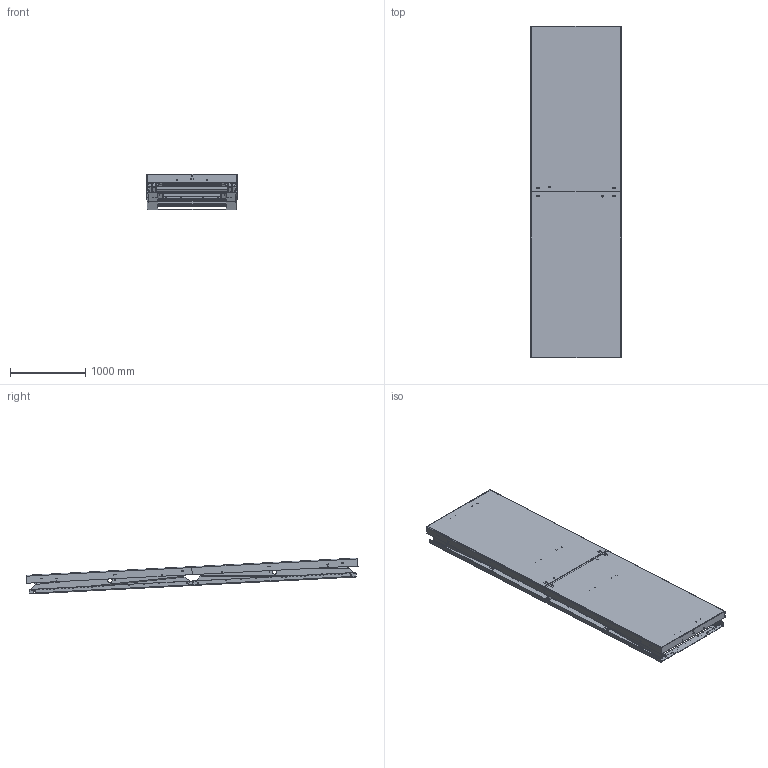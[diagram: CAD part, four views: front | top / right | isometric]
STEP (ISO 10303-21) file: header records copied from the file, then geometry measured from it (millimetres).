
FILE_DESCRIPTION(/* description */ ('TSH 4001 (4400x1200)'),/* implementation_level */ '2;1');
FILE_NAME(/* name */ '\\EDMOFILE01\Users$\JOHSO\Desktop\610970_Closed-Height.stp',/* time_stamp */ '2017-07-03T08:47:49+02:00',/* author */ ('johso'),/* organization */ (''),/* preprocessor_version */ 'ST-DEVELOPER v16.5',/* originating_system */ 'Autodesk Inventor 2017',/* authorisation */ '');
FILE_SCHEMA (('AUTOMOTIVE_DESIGN { 1 0 10303 214 3 1 1 }'));
Length unit declared in the file: millimetre
Products named in the file (27): 610970.tmp; 33731; 514600; 514601-4; 612092; 612093; 514601-2; 44870; 83208; 83209; 33732; 33732-1; 600196; 45259; 85955; 45387; ISO 4014 - M8 x 40; ISO 4019 - 50x50x5 - 1186; 48060; 606522; 606529; 82159-2112; 80060 - 768; 606523; 603642; 82159-2112_1; 82092 - 949
Assembly tree (72 placements, depth 4):
  610970.tmp
    33731
      514600  x2
        514601-4
        612092
        612093
        514601-2
        44870
        45259
      83208  x4
      83209  x4
    33732
      33732-1  x2
      45259  x4
      45387  x16
      ISO 4014 - M8 x 40  x10
      600196  x2
      85955  x2
      ISO 4019 - 50x50x5 - 1186
    48060  x2
    606522  x2
      606529
        82159-2112
      80060 - 768
    606523  x2
      603642
        82159-2112_1
      82092 - 949
Bounding box: 1200 x 4399.56 x 476.73 mm (x, y, z)
Volume: 91083201.6 mm3; surface area: 31236701.2 mm2
Topology: 75 solids, 75 shells, 3362 faces, 9546 edges, 6344 vertices
Faces by surface type: cylinder 1624, plane 1620, cone 118
Full cylindrical faces by diameter (mm): 5.55 x8, 7.4 x64, 8 x10, 8.376 x4, 10 x4, 10.2 x8, 10.5 x8, 11.63 x10, 12 x8, 12.5 x6, 13 x16, 13.835 x2, 14.5 x32, 14.6 x4, 14.63 x4, 18.5 x2, 19 x2, 28.1 x8, 60 x8, 70 x8
Entity records: 40076 total; most frequent: CARTESIAN_POINT 7177, DIRECTION 6921, ORIENTED_EDGE 6576, EDGE_CURVE 3288, AXIS2_PLACEMENT_3D 2439, VERTEX_POINT 2227, LINE 2043, VECTOR 2043
